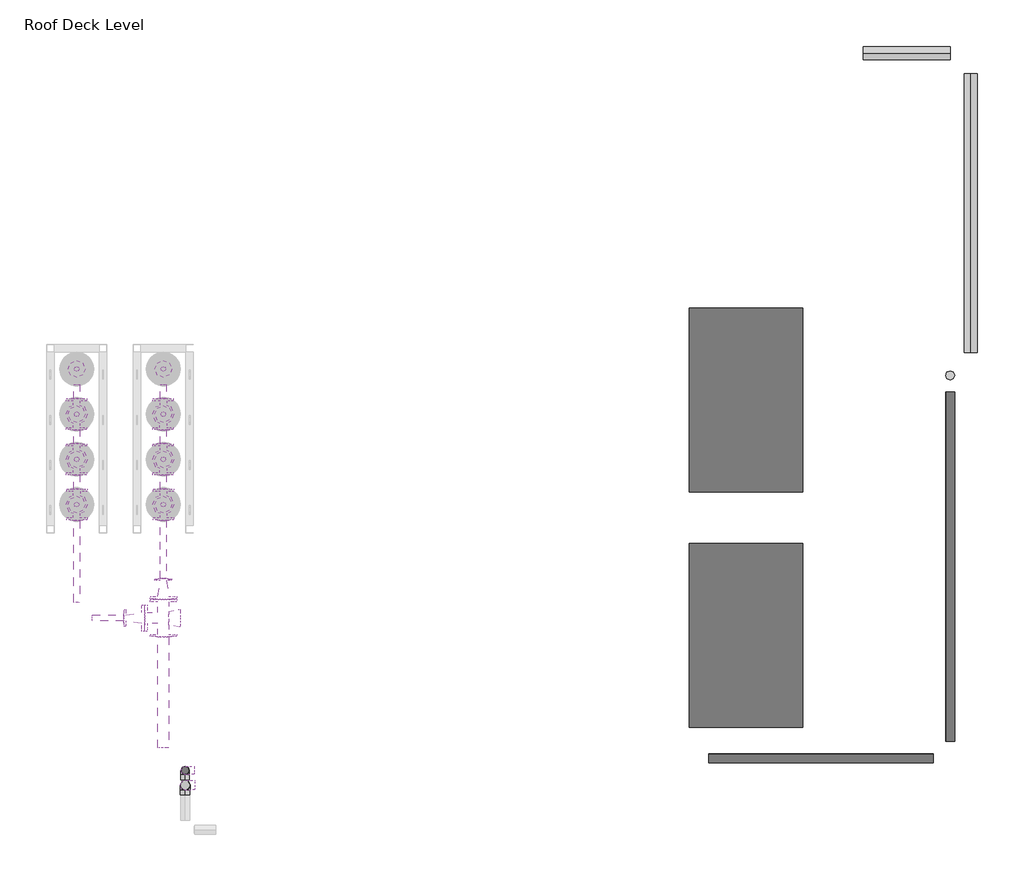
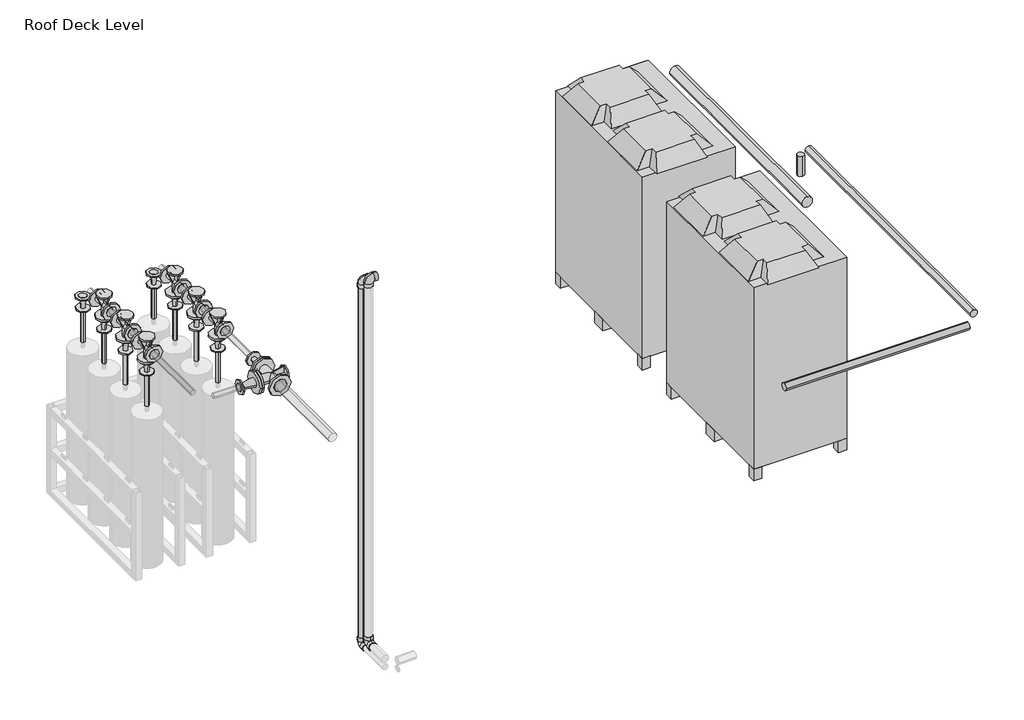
# One storey, part 3 of 3: 24 pipe segments, 21 pipe fittings, 2 proxies.
"""IFC4 building model written with IfcOpenShell, lengths in millimetres."""

from ifc_helpers import new_model, si_unit, point, frame, frame_2d, origin, place, context, project, spatial, circle_curve, trimmed, segment, composite_curve, outline, extrude, transform, mapped, element, save
from components import mechanical_equipment_ce02502f, m_reducer_flanged_cs_class_150_standard_b6b67c23, m_reducer_flanged_cs_class_150_standard_6ae1fdcb, m_reducer_flanged_cs_class_150_standard_777fbdd8, m_tee_round_base_flanged_cs_class_150_standard_9c9133d0, m_tee_round_base_flanged_cs_class_150_standard_f067e6f9, standard_57727813, standard_102e5625

model = new_model("IFC4")

# Units and contexts
model_context = context("Model", 3, world=origin())
ifc_project = project(units=[si_unit("LENGTHUNIT", "METRE", prefix="MILLI")], contexts=[model_context])

# Site, building, storey
site = spatial("IfcSite", under=ifc_project)
building = spatial("IfcBuilding", under=site)
storey = spatial("IfcBuildingStorey", under=building, Name="Roof Deck Level", Elevation=4400.0)

# Proxies
placement = place(None, origin())
mechanical_equipment_shape = mechanical_equipment_ce02502f(model_context)
element("IfcBuildingElementProxy", 1, Name="Condenser-Daikin-RXYQ14-16-18P : RXYQ14P, 400v/50Hz/3Ph", ObjectType="Condenser-Daikin-RXYQ14-16-18P : RXYQ14P, 400v/50Hz/3Ph", at=placement, inside=storey, context=model_context, shape_type="MappedRepresentation", body=[
    mapped(mechanical_equipment_shape, transform((-2047.9099461, 18289.6783949, 4700.0), x_axis=(0.0, 1.0, 0.0), y_axis=(-1.0, 0.0, 0.0), z_axis=(0.0, 0.0, 1.0))),
])
element("IfcBuildingElementProxy", 2, Name="Condenser-Daikin-RXYQ14-16-18P : RXYQ14P, 400v/50Hz/3Ph", ObjectType="Condenser-Daikin-RXYQ14-16-18P : RXYQ14P, 400v/50Hz/3Ph", at=placement, inside=storey, context=model_context, shape_type="MappedRepresentation", body=[
    mapped(mechanical_equipment_shape, transform((-2047.9099461, 16700.904492, 4700.0), x_axis=(0.0, 1.0, 0.0), y_axis=(-1.0, 0.0, 0.0), z_axis=(0.0, 0.0, 1.0))),
])

# Pipe fittings
m_reducer_flanged_cs_class_150_standard_shape = m_reducer_flanged_cs_class_150_standard_b6b67c23(model_context)
element("IfcPipeFitting", 3, ObjectType="M_Reducer - Flanged - CS - Class 150 : Standard", at=placement, inside=storey, context=model_context, shape_type="MappedRepresentation", body=[
    mapped(m_reducer_flanged_cs_class_150_standard_shape, transform((-6562.8546656, 18194.4611936, 6293.9014063), x_axis=(0.0, 0.0, -1.0), y_axis=(0.0, -1.0, 0.0), z_axis=(-1.0, 0.0, 0.0))),
])
element("IfcPipeFitting", 4, ObjectType="M_Reducer - Flanged - CS - Class 150 : Standard", at=placement, inside=storey, context=model_context, shape_type="MappedRepresentation", body=[
    mapped(m_reducer_flanged_cs_class_150_standard_shape, transform((-6562.8546656, 17584.8611936, 6293.9014063), x_axis=(0.0, 0.0, -1.0), y_axis=(0.0, -1.0, 0.0), z_axis=(-1.0, 0.0, 0.0))),
])
element("IfcPipeFitting", 5, ObjectType="M_Reducer - Flanged - CS - Class 150 : Standard", at=placement, inside=storey, context=model_context, shape_type="MappedRepresentation", body=[
    mapped(m_reducer_flanged_cs_class_150_standard_shape, transform((-5978.130502, 18194.4611936, 6293.9014063), x_axis=(0.0, 0.0, -1.0), y_axis=(0.0, -1.0, 0.0), z_axis=(-1.0, 0.0, 0.0))),
])
element("IfcPipeFitting", 6, ObjectType="M_Reducer - Flanged - CS - Class 150 : Standard", at=placement, inside=storey, context=model_context, shape_type="MappedRepresentation", body=[
    mapped(m_reducer_flanged_cs_class_150_standard_shape, transform((-5978.130502, 17584.8611936, 6293.9014063), x_axis=(0.0, 0.0, -1.0), y_axis=(0.0, -1.0, 0.0), z_axis=(-1.0, 0.0, 0.0))),
])
m_reducer_flanged_cs_class_150_standard_2_shape = m_reducer_flanged_cs_class_150_standard_6ae1fdcb(model_context)
element("IfcPipeFitting", 7, ObjectType="M_Reducer - Flanged - CS - Class 150 : Standard", at=placement, inside=storey, context=model_context, shape_type="MappedRepresentation", body=[
    mapped(m_reducer_flanged_cs_class_150_standard_2_shape, transform((-6562.8546656, 18499.2611936, 6293.9014063), x_axis=(0.0, 0.0, -1.0), y_axis=(-1.0, 0.0, 0.0), z_axis=(0.0, 1.0, 0.0))),
])
element("IfcPipeFitting", 8, ObjectType="M_Reducer - Flanged - CS - Class 150 : Standard", at=placement, inside=storey, context=model_context, shape_type="MappedRepresentation", body=[
    mapped(m_reducer_flanged_cs_class_150_standard_2_shape, transform((-6562.8546656, 17889.6611936, 6293.9014063), x_axis=(0.0, 0.0, -1.0), y_axis=(-1.0, 0.0, 0.0), z_axis=(0.0, 1.0, 0.0))),
])
element("IfcPipeFitting", 9, ObjectType="M_Reducer - Flanged - CS - Class 150 : Standard", at=placement, inside=storey, context=model_context, shape_type="MappedRepresentation", body=[
    mapped(m_reducer_flanged_cs_class_150_standard_2_shape, transform((-5978.130502, 18499.2611936, 6293.9014063), x_axis=(0.0, 0.0, -1.0), y_axis=(-1.0, 0.0, 0.0), z_axis=(0.0, 1.0, 0.0))),
])
element("IfcPipeFitting", 10, ObjectType="M_Reducer - Flanged - CS - Class 150 : Standard", at=placement, inside=storey, context=model_context, shape_type="MappedRepresentation", body=[
    mapped(m_reducer_flanged_cs_class_150_standard_2_shape, transform((-5978.130502, 17889.6611936, 6293.9014063), x_axis=(0.0, 0.0, -1.0), y_axis=(-1.0, 0.0, 0.0), z_axis=(0.0, 1.0, 0.0))),
])
m_reducer_flanged_cs_class_150_standard_3_shape = m_reducer_flanged_cs_class_150_standard_777fbdd8(model_context)
element("IfcPipeFitting", 11, ObjectType="M_Reducer - Flanged - CS - Class 150 : Standard", at=placement, inside=storey, context=model_context, shape_type="MappedRepresentation", body=[
    mapped(m_reducer_flanged_cs_class_150_standard_3_shape, transform((-5978.130502, 16945.7625998, 6400.0), x_axis=(0.0, 1.0, 0.0), y_axis=(-1.0, 0.0, 0.0), z_axis=(0.0, 0.0, 1.0))),
])
element("IfcPipeFitting", 12, ObjectType="M_Reducer - Flanged - CS - Class 150 : Standard", at=placement, inside=storey, context=model_context, shape_type="MappedRepresentation", body=[
    mapped(m_reducer_flanged_cs_class_150_standard_3_shape, transform((-6105.130502, 16818.7625998, 6400.0), x_axis=(-1.0, 0.0, 0.0), y_axis=(0.0, -1.0, 0.0), z_axis=(0.0, 0.0, 1.0))),
])
m_tee_round_base_flanged_cs_class_150_standard_shape = m_tee_round_base_flanged_cs_class_150_standard_9c9133d0(model_context)
element("IfcPipeFitting", 13, ObjectType="M_Tee Round Base - Flanged - CS - Class 150 : Standard", at=placement, inside=storey, context=model_context, shape_type="MappedRepresentation", body=[
    mapped(m_tee_round_base_flanged_cs_class_150_standard_shape, transform((-6562.8546656, 18194.4611936, 6400.0), x_axis=(0.0, 1.0, 0.0), y_axis=(0.0, 0.0, 1.0), z_axis=(1.0, 0.0, 0.0))),
])
element("IfcPipeFitting", 14, ObjectType="M_Tee Round Base - Flanged - CS - Class 150 : Standard", at=placement, inside=storey, context=model_context, shape_type="MappedRepresentation", body=[
    mapped(m_tee_round_base_flanged_cs_class_150_standard_shape, transform((-6562.8546656, 17889.6611936, 6400.0), x_axis=(0.0, 1.0, 0.0), y_axis=(0.0, 0.0, 1.0), z_axis=(1.0, 0.0, 0.0))),
])
element("IfcPipeFitting", 15, ObjectType="M_Tee Round Base - Flanged - CS - Class 150 : Standard", at=placement, inside=storey, context=model_context, shape_type="MappedRepresentation", body=[
    mapped(m_tee_round_base_flanged_cs_class_150_standard_shape, transform((-6562.8546656, 17584.8611936, 6400.0), x_axis=(0.0, -1.0, 0.0), y_axis=(0.0, 0.0, 1.0), z_axis=(-1.0, 0.0, 0.0))),
])
element("IfcPipeFitting", 16, ObjectType="M_Tee Round Base - Flanged - CS - Class 150 : Standard", at=placement, inside=storey, context=model_context, shape_type="MappedRepresentation", body=[
    mapped(m_tee_round_base_flanged_cs_class_150_standard_shape, transform((-5978.130502, 18194.4611936, 6400.0), x_axis=(0.0, 1.0, 0.0), y_axis=(0.0, 0.0, 1.0), z_axis=(1.0, 0.0, 0.0))),
])
element("IfcPipeFitting", 17, ObjectType="M_Tee Round Base - Flanged - CS - Class 150 : Standard", at=placement, inside=storey, context=model_context, shape_type="MappedRepresentation", body=[
    mapped(m_tee_round_base_flanged_cs_class_150_standard_shape, transform((-5978.130502, 17889.6611936, 6400.0), x_axis=(0.0, 1.0, 0.0), y_axis=(0.0, 0.0, 1.0), z_axis=(1.0, 0.0, 0.0))),
])
element("IfcPipeFitting", 18, ObjectType="M_Tee Round Base - Flanged - CS - Class 150 : Standard", at=placement, inside=storey, context=model_context, shape_type="MappedRepresentation", body=[
    mapped(m_tee_round_base_flanged_cs_class_150_standard_shape, transform((-5978.130502, 17584.8611936, 6400.0), x_axis=(0.0, -1.0, 0.0), y_axis=(0.0, 0.0, 1.0), z_axis=(-1.0, 0.0, 0.0))),
])
m_tee_round_base_flanged_cs_class_150_standard_2_shape = m_tee_round_base_flanged_cs_class_150_standard_f067e6f9(model_context)
element("IfcPipeFitting", 19, ObjectType="M_Tee Round Base - Flanged - CS - Class 150 : Standard", at=placement, inside=storey, context=model_context, shape_type="MappedRepresentation", body=[
    mapped(m_tee_round_base_flanged_cs_class_150_standard_2_shape, transform((-5978.130502, 16818.7625998, 6400.0), x_axis=(0.0, 1.0, 0.0), y_axis=(1.0, 0.0, 0.0), z_axis=(0.0, 0.0, -1.0))),
])
standard_shape = standard_57727813(model_context)
element("IfcPipeFitting", 20, ObjectType="M_Elbow - CPVC - Sch 40 : Standard", at=placement, inside=storey, context=model_context, shape_type="MappedRepresentation", body=[
    mapped(standard_shape, transform((-5831.0029399, 15689.9865561, 4719.8375), x_axis=(0.0, 1.0, 0.0), y_axis=(0.0, 0.0, 1.0), z_axis=(1.0, 0.0, 0.0))),
])
element("IfcPipeFitting", 21, ObjectType="M_Elbow - CPVC - Sch 40 : Standard", at=placement, inside=storey, context=model_context, shape_type="MappedRepresentation", body=[
    mapped(standard_shape, transform((-5831.0029399, 15689.9865561, 7892.2), x_axis=(0.0, 0.0, 1.0), y_axis=(1.0, 0.0, 0.0), z_axis=(0.0, 1.0, 0.0))),
])
standard_2_shape = standard_102e5625(model_context)
element("IfcPipeFitting", 22, ObjectType="M_Elbow - CPVC - Sch 40 : Standard", at=placement, inside=storey, context=model_context, shape_type="MappedRepresentation", body=[
    mapped(standard_2_shape, transform((-5831.0029399, 15789.9865561, 4650.0), x_axis=(0.0, 1.0, 0.0), y_axis=(0.0, 0.0, 1.0), z_axis=(1.0, 0.0, 0.0))),
])
element("IfcPipeFitting", 23, ObjectType="M_Elbow - CPVC - Sch 40 : Standard", at=placement, inside=storey, context=model_context, shape_type="MappedRepresentation", body=[
    mapped(standard_2_shape, transform((-5831.0029399, 15789.9865561, 7820.0), x_axis=(0.0, 0.0, 1.0), y_axis=(1.0, 0.0, 0.0), z_axis=(0.0, 1.0, 0.0))),
])

# Pipe segments
element("IfcPipeSegment", 24, ObjectType="CPVC", at=placement, inside=storey, context=model_context, shape_type="SweptSolid", body=[
    extrude(outline(composite_curve([segment(trimmed(circle_curve(frame_2d((-5831.0029399, 15789.9865561)), 24.13), [point((-5855.1329399, 15789.9865561))], [point((-5831.0029399, 15814.1165561))], False, "CARTESIAN"), True, "CONTINUOUS"), segment(trimmed(circle_curve(frame_2d((-5831.0029399, 15789.9865561)), 24.13), [point((-5831.0029399, 15814.1165561))], [point((-5806.8729399, 15789.9865561))], False, "CARTESIAN"), True, "CONTINUOUS"), segment(trimmed(circle_curve(frame_2d((-5831.0029399, 15789.9865561)), 24.13), [point((-5806.8729399, 15789.9865561))], [point((-5831.0029399, 15765.8565561))], False, "CARTESIAN"), True, "CONTINUOUS"), segment(trimmed(circle_curve(frame_2d((-5831.0029399, 15789.9865561)), 24.13), [point((-5831.0029399, 15765.8565561))], [point((-5855.1329399, 15789.9865561))], False, "CARTESIAN"), True, "CONTINUOUS")], self_intersect=False)), frame((0.0, 0.0, 4712.71895), z_axis=(0.0, 0.0, 1.0), x_axis=(1.0, 0.0, 0.0)), (0.0, 0.0, 1.0), 3044.5621),
])
element("IfcPipeSegment", 25, ObjectType="Steel flanged", at=placement, inside=storey, context=model_context, shape_type="SweptSolid", body=[
    extrude(outline(composite_curve([segment(trimmed(circle_curve(frame_2d((15873.00909, 5600.0)), 30.1625), [point((15842.84659, 5600.0))], [point((15873.00909, 5630.1625))], False, "CARTESIAN"), True, "CONTINUOUS"), segment(trimmed(circle_curve(frame_2d((15873.00909, 5600.0)), 30.1625), [point((15873.00909, 5630.1625))], [point((15903.17159, 5600.0))], False, "CARTESIAN"), True, "CONTINUOUS"), segment(trimmed(circle_curve(frame_2d((15873.00909, 5600.0)), 30.1625), [point((15903.17159, 5600.0))], [point((15873.00909, 5569.8375))], False, "CARTESIAN"), True, "CONTINUOUS"), segment(trimmed(circle_curve(frame_2d((15873.00909, 5600.0)), 30.1625), [point((15873.00909, 5569.8375))], [point((15842.84659, 5600.0))], False, "CARTESIAN"), True, "CONTINUOUS")], self_intersect=False)), frame((-2299.9259545, 0.0, 0.0), z_axis=(1.0, 0.0, 0.0), x_axis=(0.0, 1.0, 0.0)), (0.0, 0.0, 1.0), 1514.9761631),
])
element("IfcPipeSegment", 26, ObjectType="Steel flanged", at=placement, inside=storey, context=model_context, shape_type="SweptSolid", body=[
    extrude(outline(composite_curve([segment(trimmed(circle_curve(frame_2d((5600.0, -670.9497913)), 30.1625), [point((5600.0, -640.7872913))], [point((5630.1625, -670.9497913))], False, "CARTESIAN"), True, "CONTINUOUS"), segment(trimmed(circle_curve(frame_2d((5600.0, -670.9497913)), 30.1625), [point((5630.1625, -670.9497913))], [point((5600.0, -701.1122913))], False, "CARTESIAN"), True, "CONTINUOUS"), segment(trimmed(circle_curve(frame_2d((5600.0, -670.9497913)), 30.1625), [point((5600.0, -701.1122913))], [point((5569.8375, -670.9497913))], False, "CARTESIAN"), True, "CONTINUOUS"), segment(trimmed(circle_curve(frame_2d((5600.0, -670.9497913)), 30.1625), [point((5569.8375, -670.9497913))], [point((5600.0, -640.7872913))], False, "CARTESIAN"), True, "CONTINUOUS")], self_intersect=False)), frame((0.0, 15987.00909, 0.0), z_axis=(0.0, 1.0, 0.0), x_axis=(0.0, 0.0, 1.0)), (0.0, 0.0, 1.0), 2355.7102903),
])
element("IfcPipeSegment", 27, ObjectType="Steel flanged", at=placement, inside=storey, context=model_context, shape_type="SweptSolid", body=[
    extrude(outline(composite_curve([segment(trimmed(circle_curve(frame_2d((-670.9497913, 18456.7193803)), 30.1625), [point((-701.1122913, 18456.7193803))], [point((-670.9497913, 18486.8818803))], False, "CARTESIAN"), True, "CONTINUOUS"), segment(trimmed(circle_curve(frame_2d((-670.9497913, 18456.7193803)), 30.1625), [point((-670.9497913, 18486.8818803))], [point((-640.7872913, 18456.7193803))], False, "CARTESIAN"), True, "CONTINUOUS"), segment(trimmed(circle_curve(frame_2d((-670.9497913, 18456.7193803)), 30.1625), [point((-640.7872913, 18456.7193803))], [point((-670.9497913, 18426.5568803))], False, "CARTESIAN"), True, "CONTINUOUS"), segment(trimmed(circle_curve(frame_2d((-670.9497913, 18456.7193803)), 30.1625), [point((-670.9497913, 18426.5568803))], [point((-701.1122913, 18456.7193803))], False, "CARTESIAN"), True, "CONTINUOUS")], self_intersect=False)), frame((0.0, 0.0, 5312.0), z_axis=(0.0, 0.0, 1.0), x_axis=(1.0, 0.0, 0.0)), (0.0, 0.0, 1.0), 174.0),
])
element("IfcPipeSegment", 28, ObjectType="Steel flanged", at=placement, inside=storey, context=model_context, shape_type="SweptSolid", body=[
    extrude(outline(composite_curve([segment(trimmed(circle_curve(frame_2d((4931.0, -531.2497913)), 44.45), [point((4931.0, -486.7997913))], [point((4975.45, -531.2497913))], False, "CARTESIAN"), True, "CONTINUOUS"), segment(trimmed(circle_curve(frame_2d((4931.0, -531.2497913)), 44.45), [point((4975.45, -531.2497913))], [point((4931.0, -575.6997913))], False, "CARTESIAN"), True, "CONTINUOUS"), segment(trimmed(circle_curve(frame_2d((4931.0, -531.2497913)), 44.45), [point((4931.0, -575.6997913))], [point((4886.55, -531.2497913))], False, "CARTESIAN"), True, "CONTINUOUS"), segment(trimmed(circle_curve(frame_2d((4931.0, -531.2497913)), 44.45), [point((4886.55, -531.2497913))], [point((4931.0, -486.7997913))], False, "CARTESIAN"), True, "CONTINUOUS")], self_intersect=False)), frame((0.0, 18609.1193803, 0.0), z_axis=(0.0, 1.0, 0.0), x_axis=(0.0, 0.0, 1.0)), (0.0, 0.0, 1.0), 1882.4573069),
])
element("IfcPipeSegment", 29, ObjectType="Steel flanged", at=placement, inside=storey, context=model_context, shape_type="SweptSolid", body=[
    extrude(outline(composite_curve([segment(trimmed(circle_curve(frame_2d((20631.5766872, 4931.0)), 44.45), [point((20676.0266872, 4931.0))], [point((20631.5766872, 4886.55))], False, "CARTESIAN"), True, "CONTINUOUS"), segment(trimmed(circle_curve(frame_2d((20631.5766872, 4931.0)), 44.45), [point((20631.5766872, 4886.55))], [point((20587.1266872, 4931.0))], False, "CARTESIAN"), True, "CONTINUOUS"), segment(trimmed(circle_curve(frame_2d((20631.5766872, 4931.0)), 44.45), [point((20587.1266872, 4931.0))], [point((20631.5766872, 4975.45))], False, "CARTESIAN"), True, "CONTINUOUS"), segment(trimmed(circle_curve(frame_2d((20631.5766872, 4931.0)), 44.45), [point((20631.5766872, 4975.45))], [point((20676.0266872, 4931.0))], False, "CARTESIAN"), True, "CONTINUOUS")], self_intersect=False)), frame((-1257.5752057, 0.0, 0.0), z_axis=(1.0, 0.0, 0.0), x_axis=(0.0, 1.0, 0.0)), (0.0, 0.0, 1.0), 586.3254144),
])
element("IfcPipeSegment", 30, ObjectType="Steel flanged", at=placement, inside=storey, context=model_context, shape_type="SweptSolid", body=[
    extrude(outline(composite_curve([segment(trimmed(circle_curve(frame_2d((-6562.8546656, 17584.8611936)), 16.7005), [point((-6579.5551656, 17584.8611936))], [point((-6562.8546656, 17601.5616936))], False, "CARTESIAN"), True, "CONTINUOUS"), segment(trimmed(circle_curve(frame_2d((-6562.8546656, 17584.8611936)), 16.7005), [point((-6562.8546656, 17601.5616936))], [point((-6546.1541656, 17584.8611936))], False, "CARTESIAN"), True, "CONTINUOUS"), segment(trimmed(circle_curve(frame_2d((-6562.8546656, 17584.8611936)), 16.7005), [point((-6546.1541656, 17584.8611936))], [point((-6562.8546656, 17568.1606936))], False, "CARTESIAN"), True, "CONTINUOUS"), segment(trimmed(circle_curve(frame_2d((-6562.8546656, 17584.8611936)), 16.7005), [point((-6562.8546656, 17568.1606936))], [point((-6579.5551656, 17584.8611936))], False, "CARTESIAN"), True, "CONTINUOUS")], self_intersect=False)), frame((0.0, 0.0, 5895.4), z_axis=(0.0, 0.0, 1.0), x_axis=(1.0, 0.0, 0.0)), (0.0, 0.0, 1.0), 284.5014063),
])
element("IfcPipeSegment", 31, ObjectType="Steel flanged", at=placement, inside=storey, context=model_context, shape_type="SweptSolid", body=[
    extrude(outline(composite_curve([segment(trimmed(circle_curve(frame_2d((6400.0, -6562.8546656)), 21.082), [point((6400.0, -6583.9366656))], [point((6378.918, -6562.8546656))], False, "CARTESIAN"), True, "CONTINUOUS"), segment(trimmed(circle_curve(frame_2d((6400.0, -6562.8546656)), 21.082), [point((6378.918, -6562.8546656))], [point((6400.0, -6541.7726656))], False, "CARTESIAN"), True, "CONTINUOUS"), segment(trimmed(circle_curve(frame_2d((6400.0, -6562.8546656)), 21.082), [point((6400.0, -6541.7726656))], [point((6421.082, -6562.8546656))], False, "CARTESIAN"), True, "CONTINUOUS"), segment(trimmed(circle_curve(frame_2d((6400.0, -6562.8546656)), 21.082), [point((6421.082, -6562.8546656))], [point((6400.0, -6583.9366656))], False, "CARTESIAN"), True, "CONTINUOUS")], self_intersect=False)), frame((0.0, 17690.9597873, 0.0), z_axis=(0.0, 1.0, 0.0), x_axis=(0.0, 0.0, 1.0)), (0.0, 0.0, 1.0), 92.6028125),
])
element("IfcPipeSegment", 32, ObjectType="Steel flanged", at=placement, inside=storey, context=model_context, shape_type="SweptSolid", body=[
    extrude(outline(composite_curve([segment(trimmed(circle_curve(frame_2d((-6562.8546656, 18499.2611936)), 16.7005), [point((-6579.5551656, 18499.2611936))], [point((-6562.8546656, 18515.9616936))], False, "CARTESIAN"), True, "CONTINUOUS"), segment(trimmed(circle_curve(frame_2d((-6562.8546656, 18499.2611936)), 16.7005), [point((-6562.8546656, 18515.9616936))], [point((-6546.1541656, 18499.2611936))], False, "CARTESIAN"), True, "CONTINUOUS"), segment(trimmed(circle_curve(frame_2d((-6562.8546656, 18499.2611936)), 16.7005), [point((-6546.1541656, 18499.2611936))], [point((-6562.8546656, 18482.5606936))], False, "CARTESIAN"), True, "CONTINUOUS"), segment(trimmed(circle_curve(frame_2d((-6562.8546656, 18499.2611936)), 16.7005), [point((-6562.8546656, 18482.5606936))], [point((-6579.5551656, 18499.2611936))], False, "CARTESIAN"), True, "CONTINUOUS")], self_intersect=False)), frame((0.0, 0.0, 5895.4), z_axis=(0.0, 0.0, 1.0), x_axis=(1.0, 0.0, 0.0)), (0.0, 0.0, 1.0), 284.5014063),
])
element("IfcPipeSegment", 33, ObjectType="Steel flanged", at=placement, inside=storey, context=model_context, shape_type="SweptSolid", body=[
    extrude(outline(composite_curve([segment(trimmed(circle_curve(frame_2d((6400.0, -6562.8546656)), 21.082), [point((6400.0, -6583.9366656))], [point((6378.918, -6562.8546656))], False, "CARTESIAN"), True, "CONTINUOUS"), segment(trimmed(circle_curve(frame_2d((6400.0, -6562.8546656)), 21.082), [point((6378.918, -6562.8546656))], [point((6400.0, -6541.7726656))], False, "CARTESIAN"), True, "CONTINUOUS"), segment(trimmed(circle_curve(frame_2d((6400.0, -6562.8546656)), 21.082), [point((6400.0, -6541.7726656))], [point((6421.082, -6562.8546656))], False, "CARTESIAN"), True, "CONTINUOUS"), segment(trimmed(circle_curve(frame_2d((6400.0, -6562.8546656)), 21.082), [point((6421.082, -6562.8546656))], [point((6400.0, -6583.9366656))], False, "CARTESIAN"), True, "CONTINUOUS")], self_intersect=False)), frame((0.0, 18300.5597873, 0.0), z_axis=(0.0, 1.0, 0.0), x_axis=(0.0, 0.0, 1.0)), (0.0, 0.0, 1.0), 92.6028125),
])
element("IfcPipeSegment", 34, ObjectType="Steel flanged", at=placement, inside=storey, context=model_context, shape_type="SweptSolid", body=[
    extrude(outline(composite_curve([segment(trimmed(circle_curve(frame_2d((-6562.8546656, 18194.4611936)), 16.7005), [point((-6579.5551656, 18194.4611936))], [point((-6562.8546656, 18211.1616936))], False, "CARTESIAN"), True, "CONTINUOUS"), segment(trimmed(circle_curve(frame_2d((-6562.8546656, 18194.4611936)), 16.7005), [point((-6562.8546656, 18211.1616936))], [point((-6546.1541656, 18194.4611936))], False, "CARTESIAN"), True, "CONTINUOUS"), segment(trimmed(circle_curve(frame_2d((-6562.8546656, 18194.4611936)), 16.7005), [point((-6546.1541656, 18194.4611936))], [point((-6562.8546656, 18177.7606936))], False, "CARTESIAN"), True, "CONTINUOUS"), segment(trimmed(circle_curve(frame_2d((-6562.8546656, 18194.4611936)), 16.7005), [point((-6562.8546656, 18177.7606936))], [point((-6579.5551656, 18194.4611936))], False, "CARTESIAN"), True, "CONTINUOUS")], self_intersect=False)), frame((0.0, 0.0, 5895.4), z_axis=(0.0, 0.0, 1.0), x_axis=(1.0, 0.0, 0.0)), (0.0, 0.0, 1.0), 284.5014063),
])
element("IfcPipeSegment", 35, ObjectType="Steel flanged", at=placement, inside=storey, context=model_context, shape_type="SweptSolid", body=[
    extrude(outline(composite_curve([segment(trimmed(circle_curve(frame_2d((6400.0, -6562.8546656)), 21.082), [point((6400.0, -6583.9366656))], [point((6378.918, -6562.8546656))], False, "CARTESIAN"), True, "CONTINUOUS"), segment(trimmed(circle_curve(frame_2d((6400.0, -6562.8546656)), 21.082), [point((6378.918, -6562.8546656))], [point((6400.0, -6541.7726656))], False, "CARTESIAN"), True, "CONTINUOUS"), segment(trimmed(circle_curve(frame_2d((6400.0, -6562.8546656)), 21.082), [point((6400.0, -6541.7726656))], [point((6421.082, -6562.8546656))], False, "CARTESIAN"), True, "CONTINUOUS"), segment(trimmed(circle_curve(frame_2d((6400.0, -6562.8546656)), 21.082), [point((6421.082, -6562.8546656))], [point((6400.0, -6583.9366656))], False, "CARTESIAN"), True, "CONTINUOUS")], self_intersect=False)), frame((0.0, 17995.7597873, 0.0), z_axis=(0.0, 1.0, 0.0), x_axis=(0.0, 0.0, 1.0)), (0.0, 0.0, 1.0), 92.6028125),
])
element("IfcPipeSegment", 36, ObjectType="Steel flanged", at=placement, inside=storey, context=model_context, shape_type="SweptSolid", body=[
    extrude(outline(composite_curve([segment(trimmed(circle_curve(frame_2d((-6562.8546656, 17889.6611936)), 16.7005), [point((-6579.5551656, 17889.6611936))], [point((-6562.8546656, 17906.3616936))], False, "CARTESIAN"), True, "CONTINUOUS"), segment(trimmed(circle_curve(frame_2d((-6562.8546656, 17889.6611936)), 16.7005), [point((-6562.8546656, 17906.3616936))], [point((-6546.1541656, 17889.6611936))], False, "CARTESIAN"), True, "CONTINUOUS"), segment(trimmed(circle_curve(frame_2d((-6562.8546656, 17889.6611936)), 16.7005), [point((-6546.1541656, 17889.6611936))], [point((-6562.8546656, 17872.9606936))], False, "CARTESIAN"), True, "CONTINUOUS"), segment(trimmed(circle_curve(frame_2d((-6562.8546656, 17889.6611936)), 16.7005), [point((-6562.8546656, 17872.9606936))], [point((-6579.5551656, 17889.6611936))], False, "CARTESIAN"), True, "CONTINUOUS")], self_intersect=False)), frame((0.0, 0.0, 5895.4), z_axis=(0.0, 0.0, 1.0), x_axis=(1.0, 0.0, 0.0)), (0.0, 0.0, 1.0), 284.5014063),
])
element("IfcPipeSegment", 37, ObjectType="Steel flanged", at=placement, inside=storey, context=model_context, shape_type="SweptSolid", body=[
    extrude(outline(composite_curve([segment(trimmed(circle_curve(frame_2d((6400.0, -6562.8546656)), 21.082), [point((6400.0, -6583.9366656))], [point((6378.918, -6562.8546656))], False, "CARTESIAN"), True, "CONTINUOUS"), segment(trimmed(circle_curve(frame_2d((6400.0, -6562.8546656)), 21.082), [point((6378.918, -6562.8546656))], [point((6400.0, -6541.7726656))], False, "CARTESIAN"), True, "CONTINUOUS"), segment(trimmed(circle_curve(frame_2d((6400.0, -6562.8546656)), 21.082), [point((6400.0, -6541.7726656))], [point((6421.082, -6562.8546656))], False, "CARTESIAN"), True, "CONTINUOUS"), segment(trimmed(circle_curve(frame_2d((6400.0, -6562.8546656)), 21.082), [point((6421.082, -6562.8546656))], [point((6400.0, -6583.9366656))], False, "CARTESIAN"), True, "CONTINUOUS")], self_intersect=False)), frame((0.0, 16924.8611936, 0.0), z_axis=(0.0, 1.0, 0.0), x_axis=(0.0, 0.0, 1.0)), (0.0, 0.0, 1.0), 553.9014063),
])
element("IfcPipeSegment", 38, ObjectType="Steel flanged", at=placement, inside=storey, context=model_context, shape_type="SweptSolid", body=[
    extrude(outline(composite_curve([segment(trimmed(circle_curve(frame_2d((6400.0, -5978.130502)), 21.082), [point((6400.0, -5999.212502))], [point((6378.918, -5978.130502))], False, "CARTESIAN"), True, "CONTINUOUS"), segment(trimmed(circle_curve(frame_2d((6400.0, -5978.130502)), 21.082), [point((6378.918, -5978.130502))], [point((6400.0, -5957.048502))], False, "CARTESIAN"), True, "CONTINUOUS"), segment(trimmed(circle_curve(frame_2d((6400.0, -5978.130502)), 21.082), [point((6400.0, -5957.048502))], [point((6421.082, -5978.130502))], False, "CARTESIAN"), True, "CONTINUOUS"), segment(trimmed(circle_curve(frame_2d((6400.0, -5978.130502)), 21.082), [point((6421.082, -5978.130502))], [point((6400.0, -5999.212502))], False, "CARTESIAN"), True, "CONTINUOUS")], self_intersect=False)), frame((0.0, 17690.9597873, 0.0), z_axis=(0.0, 1.0, 0.0), x_axis=(0.0, 0.0, 1.0)), (0.0, 0.0, 1.0), 92.6028125),
])
element("IfcPipeSegment", 39, ObjectType="Steel flanged", at=placement, inside=storey, context=model_context, shape_type="SweptSolid", body=[
    extrude(outline(composite_curve([segment(trimmed(circle_curve(frame_2d((6400.0, -5978.130502)), 21.082), [point((6400.0, -5999.212502))], [point((6378.918, -5978.130502))], False, "CARTESIAN"), True, "CONTINUOUS"), segment(trimmed(circle_curve(frame_2d((6400.0, -5978.130502)), 21.082), [point((6378.918, -5978.130502))], [point((6400.0, -5957.048502))], False, "CARTESIAN"), True, "CONTINUOUS"), segment(trimmed(circle_curve(frame_2d((6400.0, -5978.130502)), 21.082), [point((6400.0, -5957.048502))], [point((6421.082, -5978.130502))], False, "CARTESIAN"), True, "CONTINUOUS"), segment(trimmed(circle_curve(frame_2d((6400.0, -5978.130502)), 21.082), [point((6421.082, -5978.130502))], [point((6400.0, -5999.212502))], False, "CARTESIAN"), True, "CONTINUOUS")], self_intersect=False)), frame((0.0, 18300.5597873, 0.0), z_axis=(0.0, 1.0, 0.0), x_axis=(0.0, 0.0, 1.0)), (0.0, 0.0, 1.0), 92.6028125),
])
element("IfcPipeSegment", 40, ObjectType="Steel flanged", at=placement, inside=storey, context=model_context, shape_type="SweptSolid", body=[
    extrude(outline(composite_curve([segment(trimmed(circle_curve(frame_2d((6400.0, -5978.130502)), 21.082), [point((6400.0, -5999.212502))], [point((6378.918, -5978.130502))], False, "CARTESIAN"), True, "CONTINUOUS"), segment(trimmed(circle_curve(frame_2d((6400.0, -5978.130502)), 21.082), [point((6378.918, -5978.130502))], [point((6400.0, -5957.048502))], False, "CARTESIAN"), True, "CONTINUOUS"), segment(trimmed(circle_curve(frame_2d((6400.0, -5978.130502)), 21.082), [point((6400.0, -5957.048502))], [point((6421.082, -5978.130502))], False, "CARTESIAN"), True, "CONTINUOUS"), segment(trimmed(circle_curve(frame_2d((6400.0, -5978.130502)), 21.082), [point((6421.082, -5978.130502))], [point((6400.0, -5999.212502))], False, "CARTESIAN"), True, "CONTINUOUS")], self_intersect=False)), frame((0.0, 17995.7597873, 0.0), z_axis=(0.0, 1.0, 0.0), x_axis=(0.0, 0.0, 1.0)), (0.0, 0.0, 1.0), 92.6028125),
])
element("IfcPipeSegment", 41, ObjectType="Steel flanged", at=placement, inside=storey, context=model_context, shape_type="SweptSolid", body=[
    extrude(outline(composite_curve([segment(trimmed(circle_curve(frame_2d((6400.0, -5978.130502)), 36.5125), [point((6400.0, -6014.643002))], [point((6363.4875, -5978.130502))], False, "CARTESIAN"), True, "CONTINUOUS"), segment(trimmed(circle_curve(frame_2d((6400.0, -5978.130502)), 36.5125), [point((6363.4875, -5978.130502))], [point((6400.0, -5941.618002))], False, "CARTESIAN"), True, "CONTINUOUS"), segment(trimmed(circle_curve(frame_2d((6400.0, -5978.130502)), 36.5125), [point((6400.0, -5941.618002))], [point((6436.5125, -5978.130502))], False, "CARTESIAN"), True, "CONTINUOUS"), segment(trimmed(circle_curve(frame_2d((6400.0, -5978.130502)), 36.5125), [point((6436.5125, -5978.130502))], [point((6400.0, -6014.643002))], False, "CARTESIAN"), True, "CONTINUOUS")], self_intersect=False)), frame((0.0, 15943.5004828, 0.0), z_axis=(0.0, 1.0, 0.0), x_axis=(0.0, 0.0, 1.0)), (0.0, 0.0, 1.0), 748.262117),
])
element("IfcPipeSegment", 42, ObjectType="Steel flanged", at=placement, inside=storey, context=model_context, shape_type="SweptSolid", body=[
    extrude(outline(composite_curve([segment(trimmed(circle_curve(frame_2d((-5978.130502, 18499.2611936)), 16.7005), [point((-5961.430002, 18499.2611936))], [point((-5978.130502, 18482.5606936))], False, "CARTESIAN"), True, "CONTINUOUS"), segment(trimmed(circle_curve(frame_2d((-5978.130502, 18499.2611936)), 16.7005), [point((-5978.130502, 18482.5606936))], [point((-5994.831002, 18499.2611936))], False, "CARTESIAN"), True, "CONTINUOUS"), segment(trimmed(circle_curve(frame_2d((-5978.130502, 18499.2611936)), 16.7005), [point((-5994.831002, 18499.2611936))], [point((-5978.130502, 18515.9616936))], False, "CARTESIAN"), True, "CONTINUOUS"), segment(trimmed(circle_curve(frame_2d((-5978.130502, 18499.2611936)), 16.7005), [point((-5978.130502, 18515.9616936))], [point((-5961.430002, 18499.2611936))], False, "CARTESIAN"), True, "CONTINUOUS")], self_intersect=False)), frame((0.0, 0.0, 5895.4), z_axis=(0.0, 0.0, 1.0), x_axis=(1.0, 0.0, 0.0)), (0.0, 0.0, 1.0), 284.5014063),
])
element("IfcPipeSegment", 43, ObjectType="Steel flanged", at=placement, inside=storey, context=model_context, shape_type="SweptSolid", body=[
    extrude(outline(composite_curve([segment(trimmed(circle_curve(frame_2d((-5978.130502, 18194.4611936)), 16.7005), [point((-5961.430002, 18194.4611936))], [point((-5978.130502, 18177.7606936))], False, "CARTESIAN"), True, "CONTINUOUS"), segment(trimmed(circle_curve(frame_2d((-5978.130502, 18194.4611936)), 16.7005), [point((-5978.130502, 18177.7606936))], [point((-5994.831002, 18194.4611936))], False, "CARTESIAN"), True, "CONTINUOUS"), segment(trimmed(circle_curve(frame_2d((-5978.130502, 18194.4611936)), 16.7005), [point((-5994.831002, 18194.4611936))], [point((-5978.130502, 18211.1616936))], False, "CARTESIAN"), True, "CONTINUOUS"), segment(trimmed(circle_curve(frame_2d((-5978.130502, 18194.4611936)), 16.7005), [point((-5978.130502, 18211.1616936))], [point((-5961.430002, 18194.4611936))], False, "CARTESIAN"), True, "CONTINUOUS")], self_intersect=False)), frame((0.0, 0.0, 5895.4), z_axis=(0.0, 0.0, 1.0), x_axis=(1.0, 0.0, 0.0)), (0.0, 0.0, 1.0), 284.5014063),
])
element("IfcPipeSegment", 44, ObjectType="Steel flanged", at=placement, inside=storey, context=model_context, shape_type="SweptSolid", body=[
    extrude(outline(composite_curve([segment(trimmed(circle_curve(frame_2d((-5978.130502, 17889.6611936)), 16.7005), [point((-5961.430002, 17889.6611936))], [point((-5978.130502, 17872.9606936))], False, "CARTESIAN"), True, "CONTINUOUS"), segment(trimmed(circle_curve(frame_2d((-5978.130502, 17889.6611936)), 16.7005), [point((-5978.130502, 17872.9606936))], [point((-5994.831002, 17889.6611936))], False, "CARTESIAN"), True, "CONTINUOUS"), segment(trimmed(circle_curve(frame_2d((-5978.130502, 17889.6611936)), 16.7005), [point((-5994.831002, 17889.6611936))], [point((-5978.130502, 17906.3616936))], False, "CARTESIAN"), True, "CONTINUOUS"), segment(trimmed(circle_curve(frame_2d((-5978.130502, 17889.6611936)), 16.7005), [point((-5978.130502, 17906.3616936))], [point((-5961.430002, 17889.6611936))], False, "CARTESIAN"), True, "CONTINUOUS")], self_intersect=False)), frame((0.0, 0.0, 5895.4), z_axis=(0.0, 0.0, 1.0), x_axis=(1.0, 0.0, 0.0)), (0.0, 0.0, 1.0), 284.5014063),
])
element("IfcPipeSegment", 45, ObjectType="Steel flanged", at=placement, inside=storey, context=model_context, shape_type="SweptSolid", body=[
    extrude(outline(composite_curve([segment(trimmed(circle_curve(frame_2d((-5978.130502, 17584.8611936)), 16.7005), [point((-5961.430002, 17584.8611936))], [point((-5978.130502, 17568.1606936))], False, "CARTESIAN"), True, "CONTINUOUS"), segment(trimmed(circle_curve(frame_2d((-5978.130502, 17584.8611936)), 16.7005), [point((-5978.130502, 17568.1606936))], [point((-5994.831002, 17584.8611936))], False, "CARTESIAN"), True, "CONTINUOUS"), segment(trimmed(circle_curve(frame_2d((-5978.130502, 17584.8611936)), 16.7005), [point((-5994.831002, 17584.8611936))], [point((-5978.130502, 17601.5616936))], False, "CARTESIAN"), True, "CONTINUOUS"), segment(trimmed(circle_curve(frame_2d((-5978.130502, 17584.8611936)), 16.7005), [point((-5978.130502, 17601.5616936))], [point((-5961.430002, 17584.8611936))], False, "CARTESIAN"), True, "CONTINUOUS")], self_intersect=False)), frame((0.0, 0.0, 5895.4), z_axis=(0.0, 0.0, 1.0), x_axis=(1.0, 0.0, 0.0)), (0.0, 0.0, 1.0), 284.5014063),
])
element("IfcPipeSegment", 46, ObjectType="Steel flanged", at=placement, inside=storey, context=model_context, shape_type="SweptSolid", body=[
    extrude(outline(composite_curve([segment(trimmed(circle_curve(frame_2d((16818.7625998, 6400.0)), 21.082), [point((16839.8445998, 6400.0))], [point((16818.7625998, 6378.918))], False, "CARTESIAN"), True, "CONTINUOUS"), segment(trimmed(circle_curve(frame_2d((16818.7625998, 6400.0)), 21.082), [point((16818.7625998, 6378.918))], [point((16797.6805998, 6400.0))], False, "CARTESIAN"), True, "CONTINUOUS"), segment(trimmed(circle_curve(frame_2d((16818.7625998, 6400.0)), 21.082), [point((16797.6805998, 6400.0))], [point((16818.7625998, 6421.082))], False, "CARTESIAN"), True, "CONTINUOUS"), segment(trimmed(circle_curve(frame_2d((16818.7625998, 6400.0)), 21.082), [point((16818.7625998, 6421.082))], [point((16839.8445998, 6400.0))], False, "CARTESIAN"), True, "CONTINUOUS")], self_intersect=False)), frame((-6456.7560718, 0.0, 0.0), z_axis=(1.0, 0.0, 0.0), x_axis=(0.0, 1.0, 0.0)), (0.0, 0.0, 1.0), 211.6255698),
])
element("IfcPipeSegment", 47, ObjectType="Steel flanged", at=placement, inside=storey, context=model_context, shape_type="SweptSolid", body=[
    extrude(outline(composite_curve([segment(trimmed(circle_curve(frame_2d((6400.0, -5978.130502)), 21.082), [point((6400.0, -5999.212502))], [point((6378.918, -5978.130502))], False, "CARTESIAN"), True, "CONTINUOUS"), segment(trimmed(circle_curve(frame_2d((6400.0, -5978.130502)), 21.082), [point((6378.918, -5978.130502))], [point((6400.0, -5957.048502))], False, "CARTESIAN"), True, "CONTINUOUS"), segment(trimmed(circle_curve(frame_2d((6400.0, -5978.130502)), 21.082), [point((6400.0, -5957.048502))], [point((6421.082, -5978.130502))], False, "CARTESIAN"), True, "CONTINUOUS"), segment(trimmed(circle_curve(frame_2d((6400.0, -5978.130502)), 21.082), [point((6421.082, -5978.130502))], [point((6400.0, -5999.212502))], False, "CARTESIAN"), True, "CONTINUOUS")], self_intersect=False)), frame((0.0, 17085.7625998, 0.0), z_axis=(0.0, 1.0, 0.0), x_axis=(0.0, 0.0, 1.0)), (0.0, 0.0, 1.0), 393.0),
])

save(model, "model.ifc")
